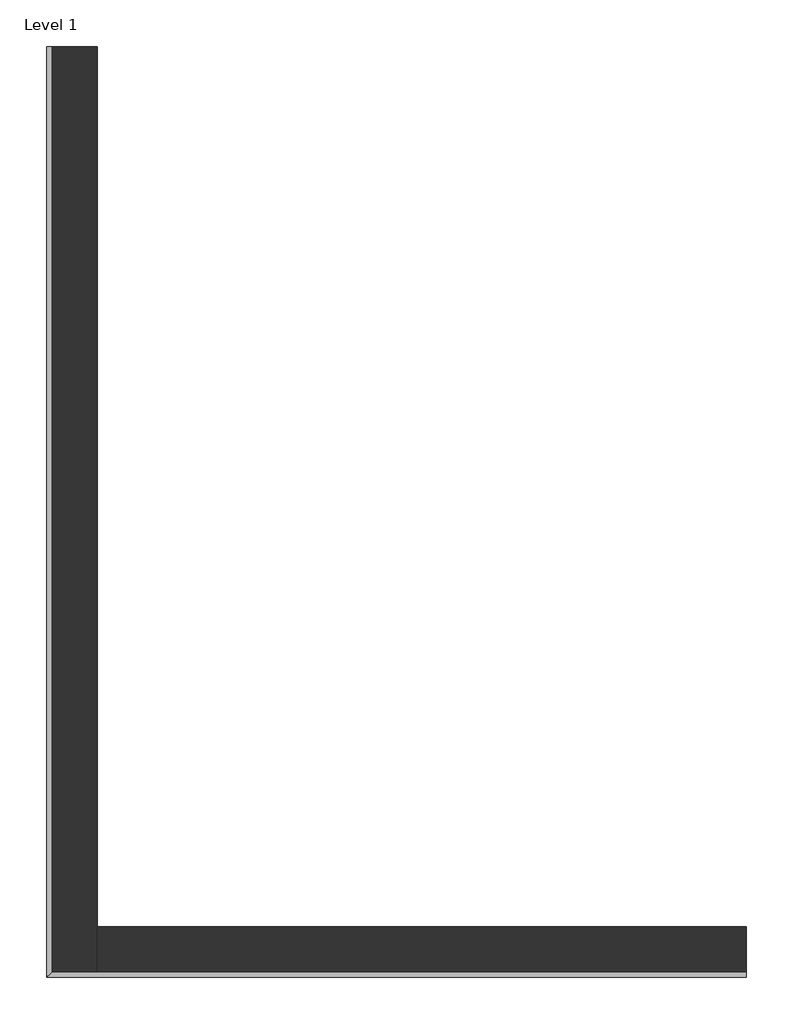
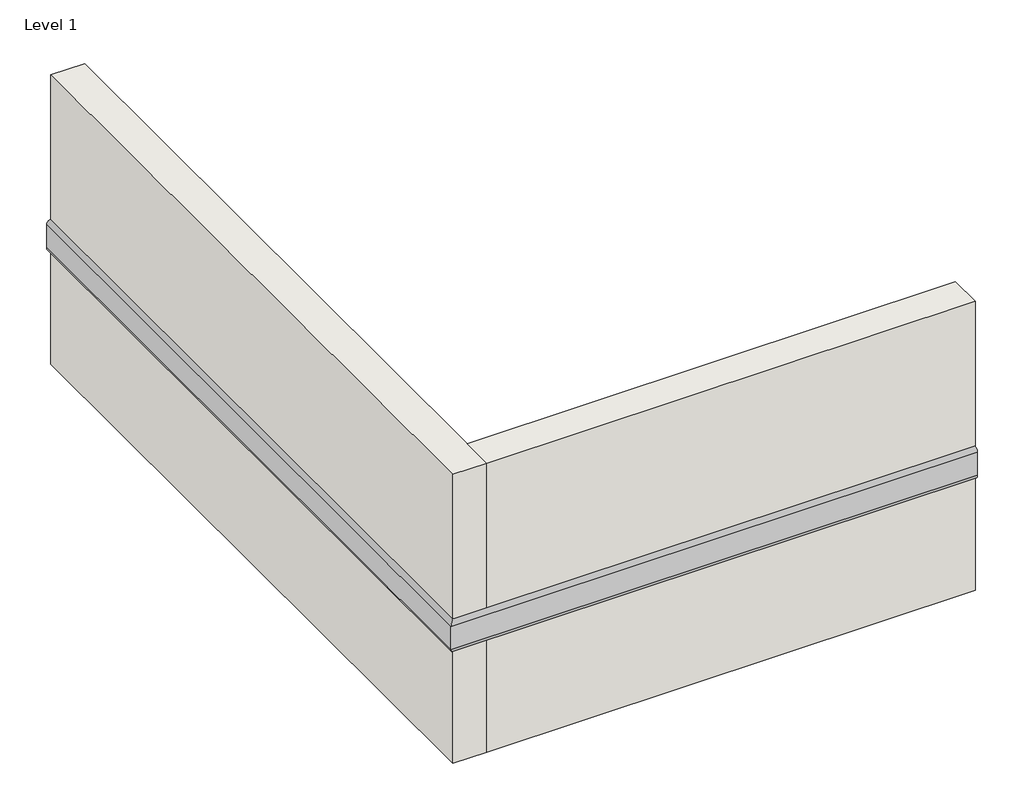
# One storey: 2 walls, 1 railing.
"""IFC4 building model written with IfcOpenShell, lengths in millimetres."""

from ifc_helpers import new_model, si_unit, origin, origin_with_axes, place, context, project, spatial, polyline, outline, extrude, faceted_brep, transform, mapped, element, save
from components import railing_ae1c5ef0

model = new_model("IFC4")

# Units and contexts
model_context = context("Model", 3, world=origin())
ifc_project = project(units=[si_unit("LENGTHUNIT", "METRE", prefix="MILLI")], contexts=[model_context])

# Site, building, storey
site = spatial("IfcSite", under=ifc_project)
building = spatial("IfcBuilding", under=site)
storey = spatial("IfcBuildingStorey", under=building, Name="Level 1", Elevation=0.0)

# Railing
placement = place(None, origin())
railing_shape = railing_ae1c5ef0(model_context)
element("IfcRailing", 1, ObjectType="Wall Guard-InPro-700i-WG-Concrete", at=placement, inside=storey, context=model_context, shape_type="MappedRepresentation", body=[
    mapped(railing_shape, transform((0.0, 0.0, 0.0), x_axis=(1.0, 0.0, 0.0), y_axis=(0.0, 1.0, 0.0), z_axis=(0.0, 0.0, 1.0))),
])

# Walls
element("IfcWall", 2, ObjectType="Wall 1", at=placement, inside=storey, context=model_context, shape_type="Brep", body=[
    faceted_brep([(-27466.109124, 18558.6919835, 0.0), (-27466.109124, 14393.0919835, 0.0), (-27466.109124, 14393.0919835, 1828.8), (-27466.109124, 18558.6919835, 1828.8), (-27262.909124, 18558.6919835, 0.0), (-27262.909124, 18558.6919835, 1828.8), (-27262.909124, 14596.2919835, 1828.8), (-27262.909124, 14393.0919835, 1828.8), (-27262.909124, 14393.0919835, 0.0), (-27262.909124, 14596.2919835, 0.0)], [[[0, 1, 2, 3]], [[4, 5, 6, 7, 8, 9]], [[1, 0, 4, 9, 8]], [[3, 2, 7, 6, 5]], [[0, 3, 5, 4]], [[2, 1, 8, 7]]]),
])
element("IfcWall", 3, ObjectType="Wall 1", at=placement, inside=storey, context=model_context, shape_type="SweptSolid", body=[
    extrude(outline(polyline([(-24341.909124, 14393.0919835), (-27262.909124, 14393.0919835), (-27262.909124, 14596.2919835), (-24341.909124, 14596.2919835), (-24341.909124, 14393.0919835)])), origin_with_axes(), (0.0, 0.0, 1.0), 1828.8),
])

save(model, "model.ifc")
